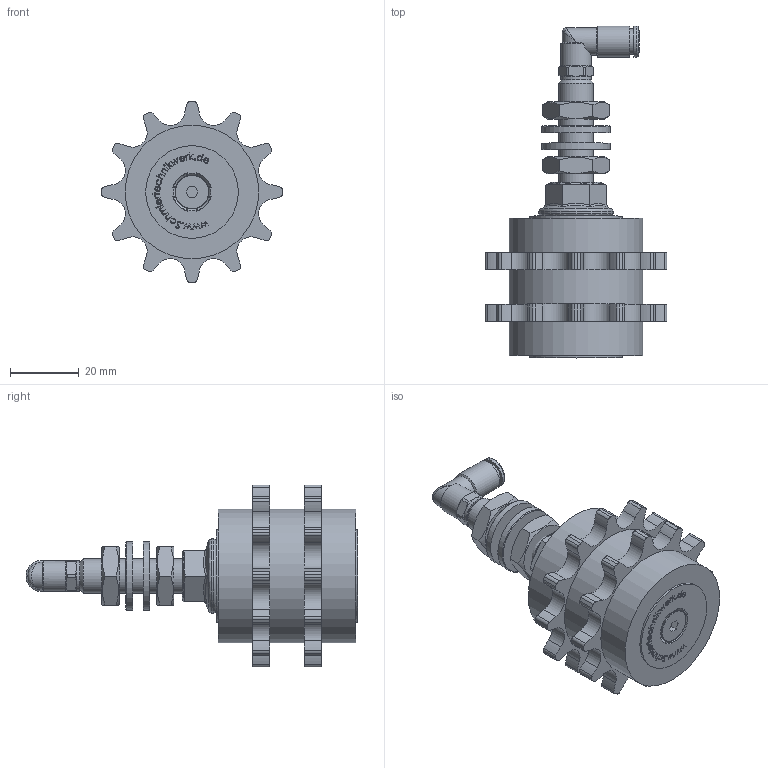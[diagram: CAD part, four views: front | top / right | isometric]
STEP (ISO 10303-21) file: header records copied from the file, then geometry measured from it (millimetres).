
FILE_DESCRIPTION (( 'STEP AP214' ), '1' );
FILE_NAME ('012_06_08B2_AZ.STEP', '2026-01-20T07:26:21', ( '' ), ( '' ), 'SwSTEP 2.0', 'SolidWorks 2022', '' );
FILE_SCHEMA (( 'AUTOMOTIVE_DESIGN' ));
Length unit declared in the file: millimetre
Products named in the file (9): Mutter_M10; DR4_NEU_1; R202200-N2A_1; 214600-N2_1; 012_06_08B2_AZ; U_Scheibe_10.5; Winkeleinsteck_4_M6; 012_06_08B2_A_Kettenschmierritzel 08 B-2, Z12 - gerade; OR 4X1.5
Assembly tree (10 placements, depth 3):
  012_06_08B2_AZ
    012_06_08B2_A_Kettenschmierritzel 08 B-2, Z12 - gerade
    Winkeleinsteck_4_M6
      OR 4X1.5
      214600-N2_1
      DR4_NEU_1
      R202200-N2A_1
    Mutter_M10  x2
    U_Scheibe_10.5  x2
Bounding box: 53 x 96.85 x 53 mm (x, y, z)
Volume: 4119.2 mm3; surface area: 23450.8 mm2
Topology: 8 solids, 29 shells, 412 faces, 1324 edges, 976 vertices
Faces by surface type: cylinder 230, plane 106, cone 57, bspline 19
Full cylindrical faces by diameter (mm): 3 x1, 4 x1, 4.1 x2, 4.2 x1, 4.6 x1, 4.917 x1, 5 x15, 6 x2, 6.4 x1, 6.8 x2, 7.3 x1, 7.4 x1, 7.6 x1, 7.85 x1, 7.9 x1, 8 x1, 8.5 x3, 9 x3, 9.1 x1, 10 x2, 10.5 x2, 12 x3, 12.1 x1, 14 x1, 20 x2, 21.6 x1, 27 x2, 39 x3
Entity records: 23317 total; most frequent: CARTESIAN_POINT 9775, DIRECTION 2093, ORIENTED_EDGE 1940, EDGE_CURVE 1125, VERTEX_POINT 892, AXIS2_PLACEMENT_3D 852, EDGE_LOOP 554, CIRCLE 462
